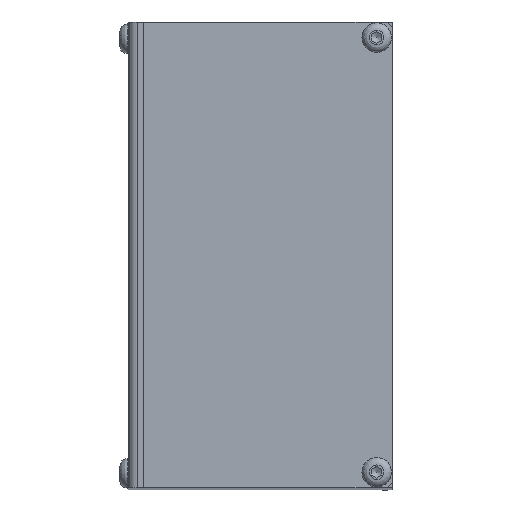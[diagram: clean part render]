
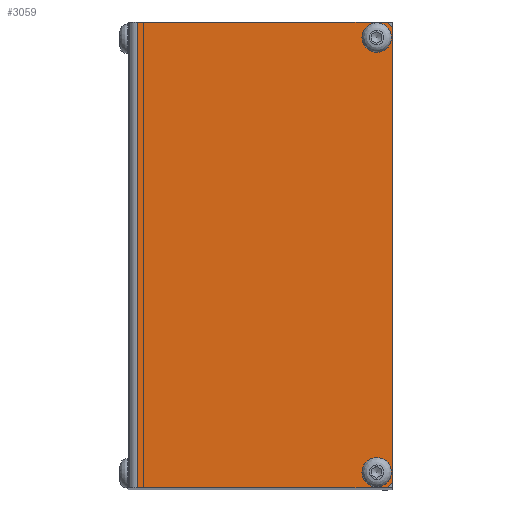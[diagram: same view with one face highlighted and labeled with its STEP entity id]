
A CAD part, top view. The second image highlights one B-rep face of the part: STEP entity #3059.
In plain terms, the highlighted planar face has unit normal (0, 0, 1).
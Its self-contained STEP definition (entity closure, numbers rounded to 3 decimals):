
#189=LINE('',#4941,#389);
#197=LINE('',#4954,#397);
#198=LINE('',#4957,#398);
#211=LINE('',#4988,#411);
#214=LINE('',#5000,#414);
#217=LINE('',#5008,#417);
#389=VECTOR('',#3981,88.);
#397=VECTOR('',#3993,1.414);
#398=VECTOR('',#3996,1.414);
#411=VECTOR('',#4031,48.2);
#414=VECTOR('',#4046,48.2);
#417=VECTOR('',#4059,90.);
#580=PLANE('',#3358);
#667=FACE_BOUND('',#1079,.T.);
#668=FACE_BOUND('',#1080,.T.);
#829=FACE_OUTER_BOUND('',#1078,.T.);
#1078=EDGE_LOOP('',(#2469,#2470,#2471,#2472,#2473,#2474));
#1079=EDGE_LOOP('',(#2475));
#1080=EDGE_LOOP('',(#2476));
#1197=CIRCLE('',#3205,2.85);
#1257=CIRCLE('',#3359,2.85);
#1349=VERTEX_POINT('',#4520);
#1471=VERTEX_POINT('',#4938);
#1472=VERTEX_POINT('',#4940);
#1475=VERTEX_POINT('',#4952);
#1476=VERTEX_POINT('',#4956);
#1483=VERTEX_POINT('',#4986);
#1486=VERTEX_POINT('',#4999);
#1487=VERTEX_POINT('',#5010);
#1630=EDGE_CURVE('',#1349,#1349,#1197,.T.);
#1796=EDGE_CURVE('',#1471,#1472,#189,.T.);
#1804=EDGE_CURVE('',#1475,#1471,#197,.T.);
#1805=EDGE_CURVE('',#1472,#1476,#198,.T.);
#1823=EDGE_CURVE('',#1483,#1475,#211,.T.);
#1829=EDGE_CURVE('',#1476,#1486,#214,.T.);
#1834=EDGE_CURVE('',#1483,#1486,#217,.T.);
#1835=EDGE_CURVE('',#1487,#1487,#1257,.T.);
#2469=ORIENTED_EDGE('',*,*,#1804,.F.);
#2470=ORIENTED_EDGE('',*,*,#1823,.F.);
#2471=ORIENTED_EDGE('',*,*,#1834,.T.);
#2472=ORIENTED_EDGE('',*,*,#1829,.F.);
#2473=ORIENTED_EDGE('',*,*,#1805,.F.);
#2474=ORIENTED_EDGE('',*,*,#1796,.F.);
#2475=ORIENTED_EDGE('',*,*,#1630,.T.);
#2476=ORIENTED_EDGE('',*,*,#1835,.T.);
#3059=ADVANCED_FACE('',(#829,#667,#668),#580,.F.);
#3205=AXIS2_PLACEMENT_3D('',#4521,#3622,#3623);
#3358=AXIS2_PLACEMENT_3D('',#5009,#4060,#4061);
#3359=AXIS2_PLACEMENT_3D('',#5011,#4062,#4063);
#3622=DIRECTION('center_axis',(0.,0.,
-1.));
#3623=DIRECTION('ref_axis',(1.,0.,0.));
#3981=DIRECTION('',(0.,-1.,0.));
#3993=DIRECTION('',(0.707,-0.707,0.));
#3996=DIRECTION('',(-0.707,-0.707,0.));
#4031=DIRECTION('',(1.,0.,0.));
#4046=DIRECTION('',(-1.,0.,0.));
#4059=DIRECTION('',(0.,-1.,0.));
#4060=DIRECTION('center_axis',(0.,0.,
-1.));
#4061=DIRECTION('ref_axis',(0.,-1.,0.));
#4062=DIRECTION('center_axis',(0.,0.,
-1.));
#4063=DIRECTION('ref_axis',(1.,0.,0.));
#4520=CARTESIAN_POINT('',(50.85,87.,250.));
#4521=CARTESIAN_POINT('Origin',(48.,87.,250.));
#4938=CARTESIAN_POINT('',(51.,89.,250.));
#4940=CARTESIAN_POINT('',(51.,1.,250.));
#4941=CARTESIAN_POINT('',(51.,90.,250.));
#4952=CARTESIAN_POINT('',(50.,90.,250.));
#4954=CARTESIAN_POINT('',(55.375,84.625,250.));
#4956=CARTESIAN_POINT('',(50.,0.,250.));
#4957=CARTESIAN_POINT('',(55.375,5.375,250.));
#4986=CARTESIAN_POINT('',(1.8,90.,250.));
#4988=CARTESIAN_POINT('',(0.,90.,250.));
#4999=CARTESIAN_POINT('',(1.8,0.,250.));
#5000=CARTESIAN_POINT('',(51.,0.,250.));
#5008=CARTESIAN_POINT('',(1.8,22.5,250.));
#5009=CARTESIAN_POINT('Origin',(25.5,45.,250.));
#5010=CARTESIAN_POINT('',(50.85,3.,250.));
#5011=CARTESIAN_POINT('Origin',(48.,3.,250.));
